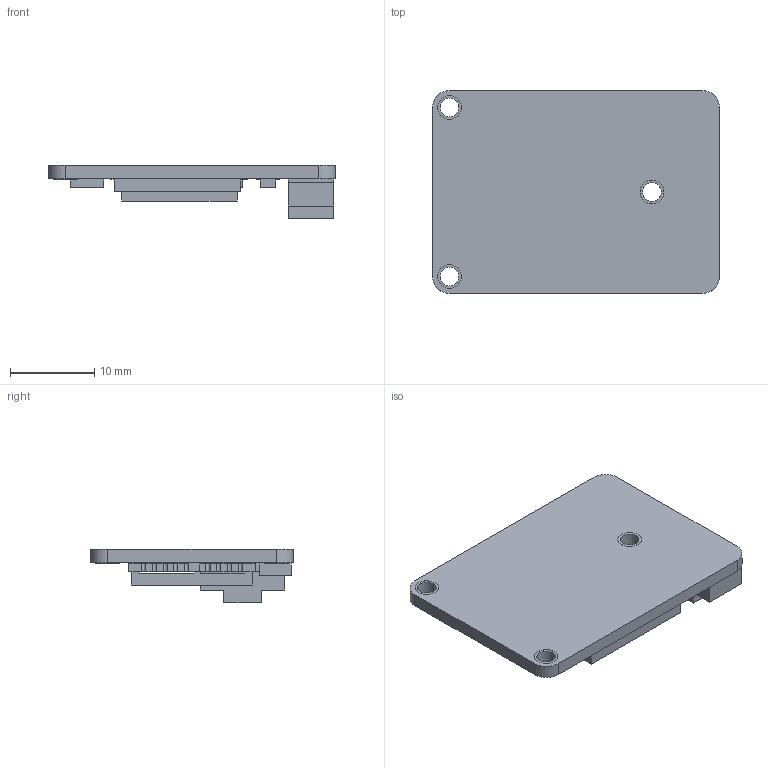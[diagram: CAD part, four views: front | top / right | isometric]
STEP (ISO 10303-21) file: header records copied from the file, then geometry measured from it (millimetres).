
FILE_DESCRIPTION (( 'STEP AP203' ), '1' );
FILE_NAME ('EVAL-HI02-3D-A1.STEP', '2026-02-28T03:04:08', ( '' ), ( '' ), 'SwSTEP 2.0', 'SolidWorks 2016', '' );
FILE_SCHEMA (( 'CONFIG_CONTROL_DESIGN' ));
Length unit declared in the file: millimetre
Products named in the file (1): EVAL-HI02-3D-A1
Bounding box: 34 x 24 x 6.32 mm (x, y, z)
Volume: 1760.3 mm3; surface area: 3285.9 mm2
Topology: 4 solids, 4 shells, 421 faces, 1117 edges, 744 vertices
Faces by surface type: plane 316, cylinder 105
Entity records: 13070 total; most frequent: CARTESIAN_POINT 2283, ORIENTED_EDGE 2234, DIRECTION 2173, EDGE_CURVE 1117, VECTOR 905, LINE 905, VERTEX_POINT 744, AXIS2_PLACEMENT_3D 634
